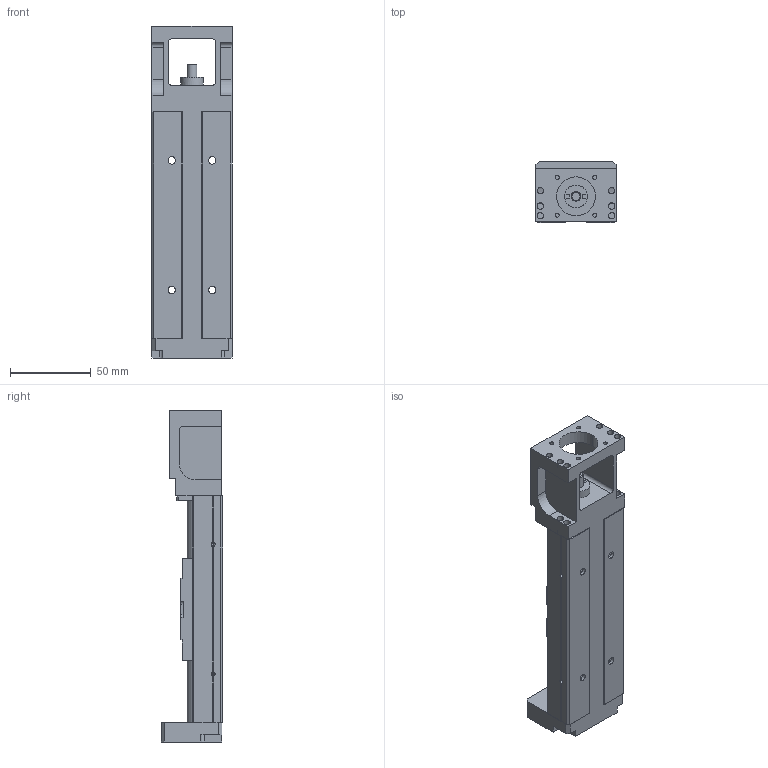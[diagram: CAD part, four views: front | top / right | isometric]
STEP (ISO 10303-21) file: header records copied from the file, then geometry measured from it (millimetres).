
FILE_DESCRIPTION (( 'STEP AP203' ), '1' );
FILE_NAME ('GSX50-50-LL1205-P7.STEP', '2013-11-02T01:38:43', ( '微软用户' ), ( '微软中国' ), 'SwSTEP 2.0', 'SolidWorks 2010', '' );
FILE_SCHEMA (( 'CONFIG_CONTROL_DESIGN' ));
Length unit declared in the file: millimetre
Products named in the file (1): GSX50-50-LL1205-P7
Bounding box: 50 x 38 x 205 mm (x, y, z)
Volume: 172763.3 mm3; surface area: 53010 mm2
Topology: 1 solids, 1 shells, 294 faces, 781 edges, 490 vertices
Faces by surface type: cylinder 136, plane 122, cone 36
Entity records: 9116 total; most frequent: CARTESIAN_POINT 1604, DIRECTION 1603, ORIENTED_EDGE 1498, EDGE_CURVE 749, AXIS2_PLACEMENT_3D 575, VERTEX_POINT 490, VECTOR 453, LINE 453
